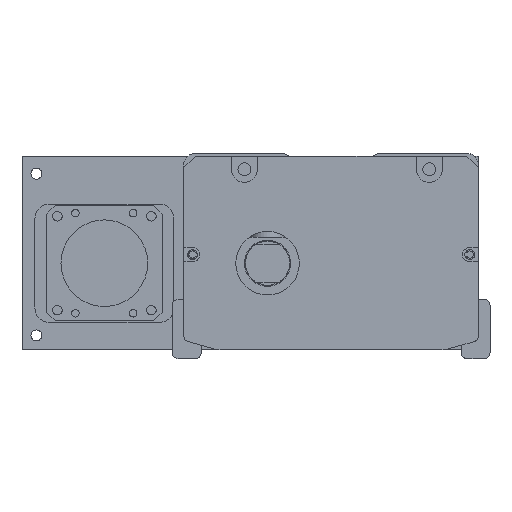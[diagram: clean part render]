
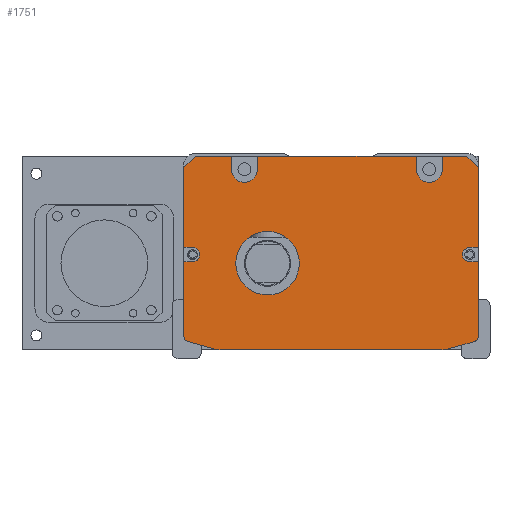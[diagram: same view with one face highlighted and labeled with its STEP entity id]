
A CAD part, front view. The second image highlights one B-rep face of the part: STEP entity #1751.
In plain terms, the highlighted planar face has unit normal (0, -1, 0).
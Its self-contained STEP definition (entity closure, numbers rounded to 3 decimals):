
#898=FACE_BOUND('',#3538,.T.);
#899=FACE_BOUND('',#3539,.T.);
#1751=ADVANCED_FACE('',(#898,#899),#2348,.F.);
#2348=PLANE('',#13676);
#3538=EDGE_LOOP('',(#7284,#7285,#7286,#7287,#7288,#7289,#7290,#7291,#7292,
#7293,#7294,#7295,#7296,#7297,#7298,#7299,#7300,#7301,#7302,#7303,#7304,
#7305,#7306,#7307,#7308,#7309,#7310,#7311));
#3539=EDGE_LOOP('',(#7312));
#4303=LINE('',#19239,#5102);
#4307=LINE('',#19247,#5106);
#4317=LINE('',#19268,#5116);
#4321=LINE('',#19276,#5120);
#4590=LINE('',#20269,#5389);
#4591=LINE('',#20271,#5390);
#4592=LINE('',#20273,#5391);
#4593=LINE('',#20277,#5392);
#4594=LINE('',#20279,#5393);
#4595=LINE('',#20281,#5394);
#4596=LINE('',#20285,#5395);
#4597=LINE('',#20287,#5396);
#4598=LINE('',#20289,#5397);
#4599=LINE('',#20290,#5398);
#4600=LINE('',#20294,#5399);
#4601=LINE('',#20297,#5400);
#4602=LINE('',#20301,#5401);
#4603=LINE('',#20305,#5402);
#4604=LINE('',#20308,#5403);
#4605=LINE('',#20312,#5404);
#5102=VECTOR('',#15254,1.);
#5106=VECTOR('',#15258,1.);
#5116=VECTOR('',#15270,1.);
#5120=VECTOR('',#15274,1.);
#5389=VECTOR('',#16339,1.);
#5390=VECTOR('',#16340,1.);
#5391=VECTOR('',#16341,1.);
#5392=VECTOR('',#16344,1.);
#5393=VECTOR('',#16345,1.);
#5394=VECTOR('',#16346,1.);
#5395=VECTOR('',#16349,1.);
#5396=VECTOR('',#16350,1.);
#5397=VECTOR('',#16351,1.);
#5398=VECTOR('',#16352,1.);
#5399=VECTOR('',#16355,1.);
#5400=VECTOR('',#16358,1.);
#5401=VECTOR('',#16361,1.);
#5402=VECTOR('',#16364,1.);
#5403=VECTOR('',#16367,1.);
#5404=VECTOR('',#16370,1.);
#7284=ORIENTED_EDGE('',*,*,#10886,.T.);
#7285=ORIENTED_EDGE('',*,*,#11370,.T.);
#7286=ORIENTED_EDGE('',*,*,#11371,.T.);
#7287=ORIENTED_EDGE('',*,*,#11372,.F.);
#7288=ORIENTED_EDGE('',*,*,#11373,.T.);
#7289=ORIENTED_EDGE('',*,*,#11374,.F.);
#7290=ORIENTED_EDGE('',*,*,#11375,.T.);
#7291=ORIENTED_EDGE('',*,*,#11376,.F.);
#7292=ORIENTED_EDGE('',*,*,#11377,.T.);
#7293=ORIENTED_EDGE('',*,*,#11378,.F.);
#7294=ORIENTED_EDGE('',*,*,#11379,.T.);
#7295=ORIENTED_EDGE('',*,*,#11380,.T.);
#7296=ORIENTED_EDGE('',*,*,#10904,.T.);
#7297=ORIENTED_EDGE('',*,*,#11381,.T.);
#7298=ORIENTED_EDGE('',*,*,#11382,.T.);
#7299=ORIENTED_EDGE('',*,*,#11383,.T.);
#7300=ORIENTED_EDGE('',*,*,#10900,.T.);
#7301=ORIENTED_EDGE('',*,*,#11384,.T.);
#7302=ORIENTED_EDGE('',*,*,#11385,.T.);
#7303=ORIENTED_EDGE('',*,*,#11386,.T.);
#7304=ORIENTED_EDGE('',*,*,#11387,.T.);
#7305=ORIENTED_EDGE('',*,*,#11388,.T.);
#7306=ORIENTED_EDGE('',*,*,#11389,.T.);
#7307=ORIENTED_EDGE('',*,*,#11390,.T.);
#7308=ORIENTED_EDGE('',*,*,#10890,.T.);
#7309=ORIENTED_EDGE('',*,*,#11391,.T.);
#7310=ORIENTED_EDGE('',*,*,#11392,.T.);
#7311=ORIENTED_EDGE('',*,*,#11393,.T.);
#7312=ORIENTED_EDGE('',*,*,#11394,.T.);
#9578=VERTEX_POINT('',#19238);
#9579=VERTEX_POINT('',#19240);
#9582=VERTEX_POINT('',#19246);
#9583=VERTEX_POINT('',#19248);
#9592=VERTEX_POINT('',#19267);
#9593=VERTEX_POINT('',#19269);
#9596=VERTEX_POINT('',#19275);
#9597=VERTEX_POINT('',#19277);
#9923=VERTEX_POINT('',#20270);
#9924=VERTEX_POINT('',#20272);
#9925=VERTEX_POINT('',#20274);
#9926=VERTEX_POINT('',#20276);
#9927=VERTEX_POINT('',#20278);
#9928=VERTEX_POINT('',#20280);
#9929=VERTEX_POINT('',#20282);
#9930=VERTEX_POINT('',#20284);
#9931=VERTEX_POINT('',#20286);
#9932=VERTEX_POINT('',#20288);
#9933=VERTEX_POINT('',#20291);
#9934=VERTEX_POINT('',#20293);
#9935=VERTEX_POINT('',#20296);
#9936=VERTEX_POINT('',#20298);
#9937=VERTEX_POINT('',#20300);
#9938=VERTEX_POINT('',#20302);
#9939=VERTEX_POINT('',#20304);
#9940=VERTEX_POINT('',#20306);
#9941=VERTEX_POINT('',#20309);
#9942=VERTEX_POINT('',#20311);
#9943=VERTEX_POINT('',#20314);
#10886=EDGE_CURVE('',#9579,#9578,#4303,.T.);
#10890=EDGE_CURVE('',#9583,#9582,#4307,.T.);
#10900=EDGE_CURVE('',#9593,#9592,#4317,.T.);
#10904=EDGE_CURVE('',#9597,#9596,#4321,.T.);
#11370=EDGE_CURVE('',#9578,#9923,#4590,.T.);
#11371=EDGE_CURVE('',#9923,#9924,#4591,.T.);
#11372=EDGE_CURVE('',#9925,#9924,#4592,.T.);
#11373=EDGE_CURVE('',#9925,#9926,#12633,.T.);
#11374=EDGE_CURVE('',#9927,#9926,#4593,.T.);
#11375=EDGE_CURVE('',#9927,#9928,#4594,.T.);
#11376=EDGE_CURVE('',#9929,#9928,#4595,.T.);
#11377=EDGE_CURVE('',#9929,#9930,#12634,.T.);
#11378=EDGE_CURVE('',#9931,#9930,#4596,.T.);
#11379=EDGE_CURVE('',#9931,#9932,#4597,.T.);
#11380=EDGE_CURVE('',#9932,#9597,#4598,.T.);
#11381=EDGE_CURVE('',#9596,#9933,#4599,.T.);
#11382=EDGE_CURVE('',#9933,#9934,#12635,.T.);
#11383=EDGE_CURVE('',#9934,#9593,#4600,.T.);
#11384=EDGE_CURVE('',#9592,#9935,#12636,.T.);
#11385=EDGE_CURVE('',#9935,#9936,#4601,.T.);
#11386=EDGE_CURVE('',#9936,#9937,#12637,.T.);
#11387=EDGE_CURVE('',#9937,#9938,#4602,.T.);
#11388=EDGE_CURVE('',#9938,#9939,#12638,.T.);
#11389=EDGE_CURVE('',#9939,#9940,#4603,.T.);
#11390=EDGE_CURVE('',#9940,#9583,#12639,.T.);
#11391=EDGE_CURVE('',#9582,#9941,#4604,.T.);
#11392=EDGE_CURVE('',#9941,#9942,#12640,.T.);
#11393=EDGE_CURVE('',#9942,#9579,#4605,.T.);
#11394=EDGE_CURVE('',#9943,#9943,#12641,.T.);
#12633=CIRCLE('',#13667,4.5);
#12634=CIRCLE('',#13668,4.5);
#12635=CIRCLE('',#13669,2.5);
#12636=CIRCLE('',#13670,2.);
#12637=CIRCLE('',#13671,10.);
#12638=CIRCLE('',#13672,10.);
#12639=CIRCLE('',#13673,2.);
#12640=CIRCLE('',#13674,2.5);
#12641=CIRCLE('',#13675,11.);
#13667=AXIS2_PLACEMENT_3D('',#20275,#16342,#16343);
#13668=AXIS2_PLACEMENT_3D('',#20283,#16347,#16348);
#13669=AXIS2_PLACEMENT_3D('',#20292,#16353,#16354);
#13670=AXIS2_PLACEMENT_3D('',#20295,#16356,#16357);
#13671=AXIS2_PLACEMENT_3D('',#20299,#16359,#16360);
#13672=AXIS2_PLACEMENT_3D('',#20303,#16362,#16363);
#13673=AXIS2_PLACEMENT_3D('',#20307,#16365,#16366);
#13674=AXIS2_PLACEMENT_3D('',#20310,#16368,#16369);
#13675=AXIS2_PLACEMENT_3D('',#20313,#16371,#16372);
#13676=AXIS2_PLACEMENT_3D('',#20315,#16373,#16374);
#15254=DIRECTION('',(0.,0.,1.));
#15258=DIRECTION('',(0.,0.,1.));
#15270=DIRECTION('',(0.,0.,-1.));
#15274=DIRECTION('',(0.,0.,-1.));
#16339=DIRECTION('',(-0.707,0.,0.707));
#16340=DIRECTION('',(-1.,0.,0.));
#16341=DIRECTION('',(0.,0.,1.));
#16342=DIRECTION('',(0.,1.,0.));
#16343=DIRECTION('',(0.,0.,1.));
#16344=DIRECTION('',(0.,0.,-1.));
#16345=DIRECTION('',(-1.,0.,0.));
#16346=DIRECTION('',(0.,0.,1.));
#16347=DIRECTION('',(0.,1.,0.));
#16348=DIRECTION('',(0.,0.,1.));
#16349=DIRECTION('',(0.,0.,-1.));
#16350=DIRECTION('',(-1.,0.,0.));
#16351=DIRECTION('',(-0.707,0.,-0.707));
#16352=DIRECTION('',(1.,0.,0.));
#16353=DIRECTION('',(0.,1.,0.));
#16354=DIRECTION('',(0.,0.,1.));
#16355=DIRECTION('',(-1.,0.,0.));
#16356=DIRECTION('',(0.,-1.,0.));
#16357=DIRECTION('',(0.,0.,1.));
#16358=DIRECTION('',(0.963,0.,-0.269));
#16359=DIRECTION('',(0.,-1.,0.));
#16360=DIRECTION('',(0.,0.,1.));
#16361=DIRECTION('',(1.,0.,0.));
#16362=DIRECTION('',(0.,-1.,0.));
#16363=DIRECTION('',(0.,0.,-1.));
#16364=DIRECTION('',(0.963,0.,0.269));
#16365=DIRECTION('',(0.,-1.,0.));
#16366=DIRECTION('',(0.,0.,-1.));
#16367=DIRECTION('',(-1.,0.,0.));
#16368=DIRECTION('',(0.,1.,0.));
#16369=DIRECTION('',(0.,0.,1.));
#16370=DIRECTION('',(1.,0.,0.));
#16371=DIRECTION('',(0.,1.,0.));
#16372=DIRECTION('',(0.,0.,1.));
#16373=DIRECTION('',(0.,1.,0.));
#16374=DIRECTION('',(1.,0.,0.));
#19238=CARTESIAN_POINT('',(47.808,-67.5,-5.));
#19239=CARTESIAN_POINT('',(47.808,-67.5,-1.));
#19240=CARTESIAN_POINT('',(47.808,-67.5,-32.5));
#19246=CARTESIAN_POINT('',(47.808,-67.5,-37.5));
#19247=CARTESIAN_POINT('',(47.808,-67.5,-1.));
#19248=CARTESIAN_POINT('',(47.808,-67.5,-63.212));
#19267=CARTESIAN_POINT('',(-54.192,-67.5,-63.212));
#19268=CARTESIAN_POINT('',(-54.192,-67.5,-62.));
#19269=CARTESIAN_POINT('',(-54.192,-67.5,-37.5));
#19275=CARTESIAN_POINT('',(-54.192,-67.5,-32.5));
#19276=CARTESIAN_POINT('',(-54.192,-67.5,-62.));
#19277=CARTESIAN_POINT('',(-54.192,-67.5,-5.));
#20269=CARTESIAN_POINT('',(43.808,-67.5,-1.));
#20270=CARTESIAN_POINT('',(43.808,-67.5,-1.));
#20271=CARTESIAN_POINT('',(-3.192,-67.5,-1.));
#20272=CARTESIAN_POINT('',(35.308,-67.5,-1.));
#20273=CARTESIAN_POINT('',(35.308,-67.5,-1.));
#20274=CARTESIAN_POINT('',(35.308,-67.5,-5.5));
#20275=CARTESIAN_POINT('',(30.808,-67.5,-5.5));
#20276=CARTESIAN_POINT('',(26.308,-67.5,-5.5));
#20277=CARTESIAN_POINT('',(26.308,-67.5,-1.));
#20278=CARTESIAN_POINT('',(26.308,-67.5,-1.));
#20279=CARTESIAN_POINT('',(-54.192,-67.5,-1.));
#20280=CARTESIAN_POINT('',(-28.692,-67.5,-1.));
#20281=CARTESIAN_POINT('',(-28.692,-67.5,-3.5));
#20282=CARTESIAN_POINT('',(-28.692,-67.5,-5.5));
#20283=CARTESIAN_POINT('',(-33.192,-67.5,-5.5));
#20284=CARTESIAN_POINT('',(-37.692,-67.5,-5.5));
#20285=CARTESIAN_POINT('',(-37.692,-67.5,-1.));
#20286=CARTESIAN_POINT('',(-37.692,-67.5,-1.));
#20287=CARTESIAN_POINT('',(-54.192,-67.5,-1.));
#20288=CARTESIAN_POINT('',(-50.192,-67.5,-1.));
#20289=CARTESIAN_POINT('',(-54.192,-67.5,-5.));
#20290=CARTESIAN_POINT('',(-3.192,-67.5,-32.5));
#20291=CARTESIAN_POINT('',(-51.192,-67.5,-32.5));
#20292=CARTESIAN_POINT('',(-51.192,-67.5,-35.));
#20293=CARTESIAN_POINT('',(-51.192,-67.5,-37.5));
#20294=CARTESIAN_POINT('',(-3.192,-67.5,-37.5));
#20295=CARTESIAN_POINT('',(-52.192,-67.5,-63.212));
#20296=CARTESIAN_POINT('',(-52.731,-67.5,-65.138));
#20297=CARTESIAN_POINT('',(-55.807,-67.5,-64.279));
#20298=CARTESIAN_POINT('',(-43.809,-67.5,-67.631));
#20299=CARTESIAN_POINT('',(-41.118,-67.5,-58.));
#20300=CARTESIAN_POINT('',(-41.118,-67.5,-68.));
#20301=CARTESIAN_POINT('',(-54.692,-67.5,-68.));
#20302=CARTESIAN_POINT('',(34.733,-67.5,-68.));
#20303=CARTESIAN_POINT('',(34.733,-67.5,-58.));
#20304=CARTESIAN_POINT('',(37.424,-67.5,-67.631));
#20305=CARTESIAN_POINT('',(49.422,-67.5,-64.279));
#20306=CARTESIAN_POINT('',(46.346,-67.5,-65.138));
#20307=CARTESIAN_POINT('',(45.808,-67.5,-63.212));
#20308=CARTESIAN_POINT('',(-3.192,-67.5,-37.5));
#20309=CARTESIAN_POINT('',(44.808,-67.5,-37.5));
#20310=CARTESIAN_POINT('',(44.808,-67.5,-35.));
#20311=CARTESIAN_POINT('',(44.808,-67.5,-32.5));
#20312=CARTESIAN_POINT('',(-3.192,-67.5,-32.5));
#20313=CARTESIAN_POINT('',(-25.192,-67.5,-38.));
#20314=CARTESIAN_POINT('',(-25.192,-67.5,-27.));
#20315=CARTESIAN_POINT('',(-3.192,-67.5,-1.));
